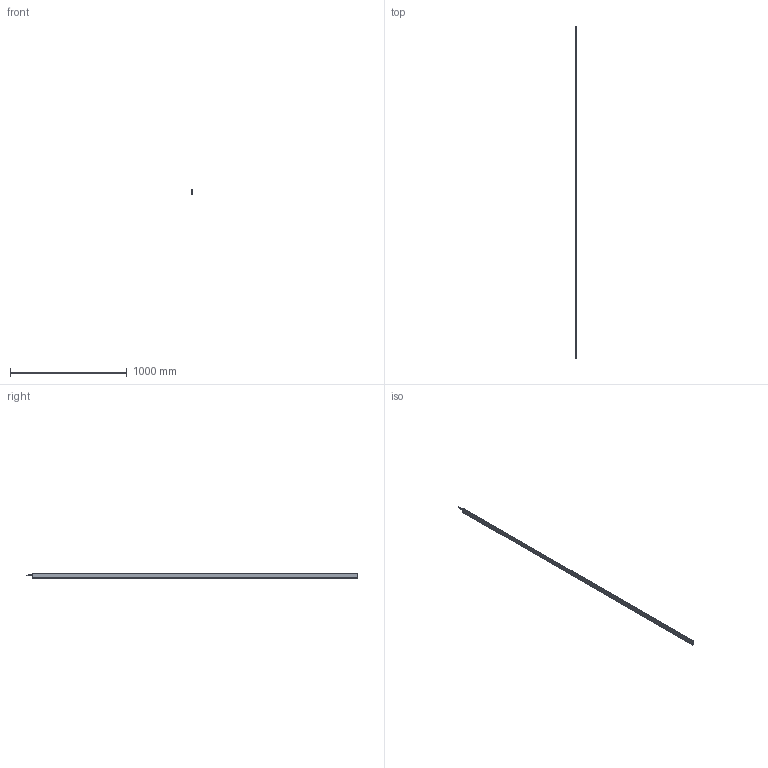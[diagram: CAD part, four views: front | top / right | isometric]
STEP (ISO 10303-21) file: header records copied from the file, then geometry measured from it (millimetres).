
FILE_DESCRIPTION (( 'STEP AP214' ), '1' );
FILE_NAME ('ILG-L-K2-2790mm.STEP', '2017-07-11T08:47:13', ( '' ), ( '' ), 'SwSTEP 2.0', 'SolidWorks 2016', '' );
FILE_SCHEMA (( 'AUTOMOTIVE_DESIGN' ));
Length unit declared in the file: millimetre
Products named in the file (1): ILG-L-K2-2790mm
Bounding box: 9 x 2844.5 x 40.71 mm (x, y, z)
Surface area: 549070 mm2 (no closed solid volume)
Topology: 0 solids, 13 shells, 681 faces, 1786 edges, 1135 vertices
Faces by surface type: cylinder 288, plane 255, cone 90, bspline 32, torus 16
Entity records: 30628 total; most frequent: CARTESIAN_POINT 6489, ORIENTED_EDGE 3525, DIRECTION 3406, EDGE_CURVE 1770, AXIS2_PLACEMENT_3D 1301, VERTEX_POINT 1135, LINE 804, VECTOR 804
